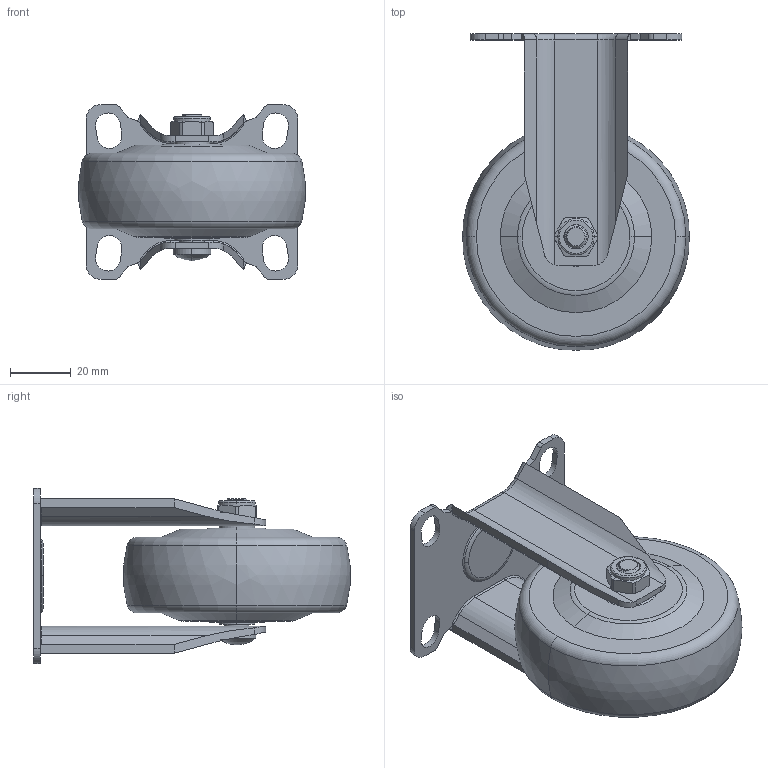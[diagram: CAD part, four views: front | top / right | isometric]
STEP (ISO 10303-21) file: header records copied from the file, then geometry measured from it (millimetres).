
FILE_DESCRIPTION((''),'2;1');
FILE_NAME('361025-3625-64_ASM','2020-01-03T',('L'),(''),'PRO/ENGINEER BY PARAMETRIC TECHNOLOGY CORPORATION, 2010280','PRO/ENGINEER BY PARAMETRIC TECHNOLOGY CORPORATION, 2010280','');
FILE_SCHEMA(('CONFIG_CONTROL_DESIGN'));
Length unit declared in the file: millimetre
Products named in the file (5): 36103; 363-964; 350-33A; 300-34; 361025-3625-64_ASM
Assembly tree (4 placements, depth 2):
  361025-3625-64_ASM
    36103
    363-964
    350-33A
    300-34
Bounding box: 74.72 x 104.36 x 57.8 mm (x, y, z)
Volume: 131544.2 mm3; surface area: 34371.3 mm2
Topology: 4 solids, 4 shells, 245 faces, 623 edges, 394 vertices
Faces by surface type: cylinder 90, plane 86, torus 26, bspline 21, cone 20, sphere 2
Entity records: 10947 total; most frequent: CARTESIAN_POINT 5024, ORIENTED_EDGE 1242, DIRECTION 1172, EDGE_CURVE 621, AXIS2_PLACEMENT_3D 442, VERTEX_POINT 394, VECTOR 288, LINE 288
